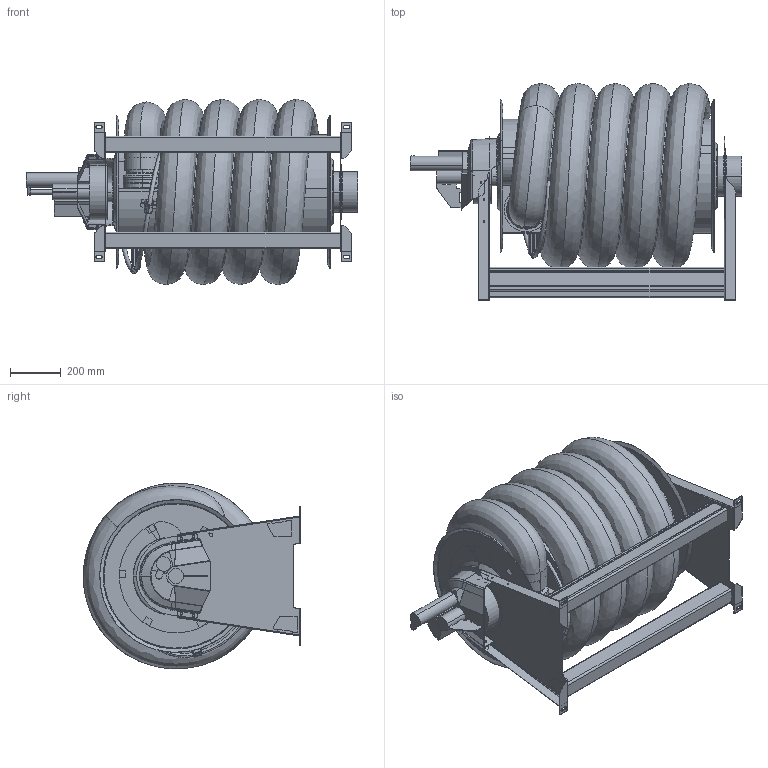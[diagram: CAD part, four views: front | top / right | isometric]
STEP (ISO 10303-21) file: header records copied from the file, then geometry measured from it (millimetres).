
FILE_DESCRIPTION((''),'2;1');
FILE_NAME('ASEM_85_125-10','2022-04-20T15:15:54',('Tomas Bellgran'),(''),'CREO PARAMETRIC BY PTC INC, 2018260','CREO PARAMETRIC BY PTC INC, 2018260','');
FILE_SCHEMA(('AUTOMOTIVE_DESIGN { 1 0 10303 214 1 1 1 1 }'));
Products named in the file (27): 110534; 110536; 110802; 111736; 111735; 110562; 112850; 110528; 110592; 110652; G_ASE_DUMMY; 124129; G_ASL-EVO_150CON_BRACKET; GUIDE_125; 110660; 124297; ASEM_DRUM_85_125; HOSE_125_10; 143740; 143700; 143550; 144299; 143702; 144230; 111192_NEW; 104504_L; ASEM_85_125-10
Assembly tree (30 placements, depth 4):
  ASEM_85_125-10
    110562
      110534
      110536
      110802  x2
      111736
      111735
    112850  x2
    ASEM_DRUM_85_125
      110528  x2
      110592
      110652
      G_ASL-EVO_150CON_BRACKET
        G_ASE_DUMMY
        124129
      GUIDE_125
      110660  x2
      124297
    HOSE_125_10
    104504_L
      143740
      143702
        143700
        143550
        144299
      144230
      111192_NEW
Bounding box: 1302 x 855 x 729.97 mm (x, y, z)
Volume: 276572098.8 mm3; surface area: 11787600.7 mm2
Topology: 25 solids, 29 shells, 1059 faces, 2485 edges, 1490 vertices
Faces by surface type: plane 544, cylinder 326, bspline 85, torus 72, cone 32
Entity records: 55328 total; most frequent: CARTESIAN_POINT 19924, DIRECTION 4660, ORIENTED_EDGE 4082, EDGE_CURVE 2047, AXIS2_PLACEMENT_3D 1664, PRESENTATION_STYLE_ASSIGNMENT 1645, STYLED_ITEM 1644, PROPERTY_DEFINITION 1425
